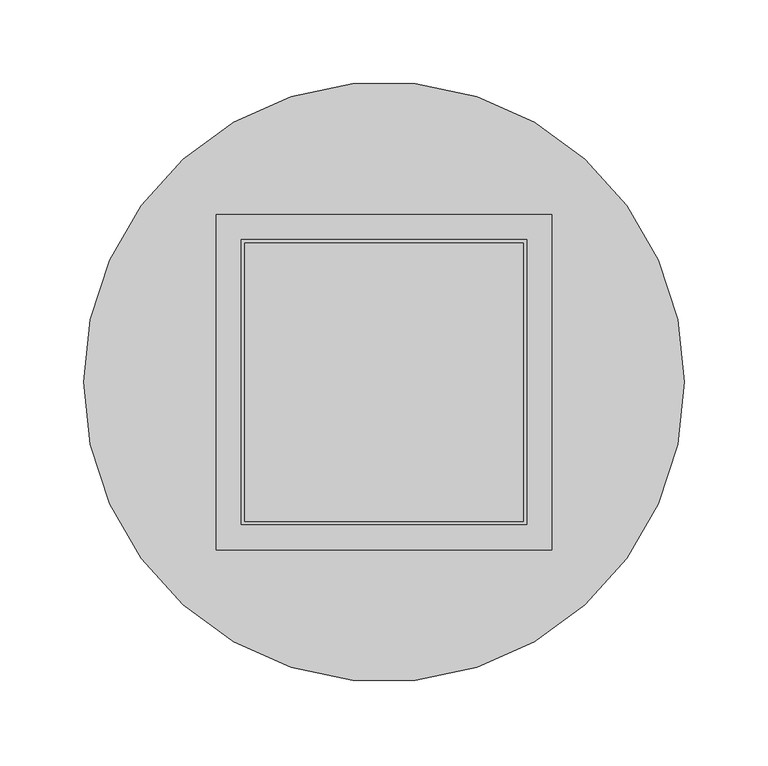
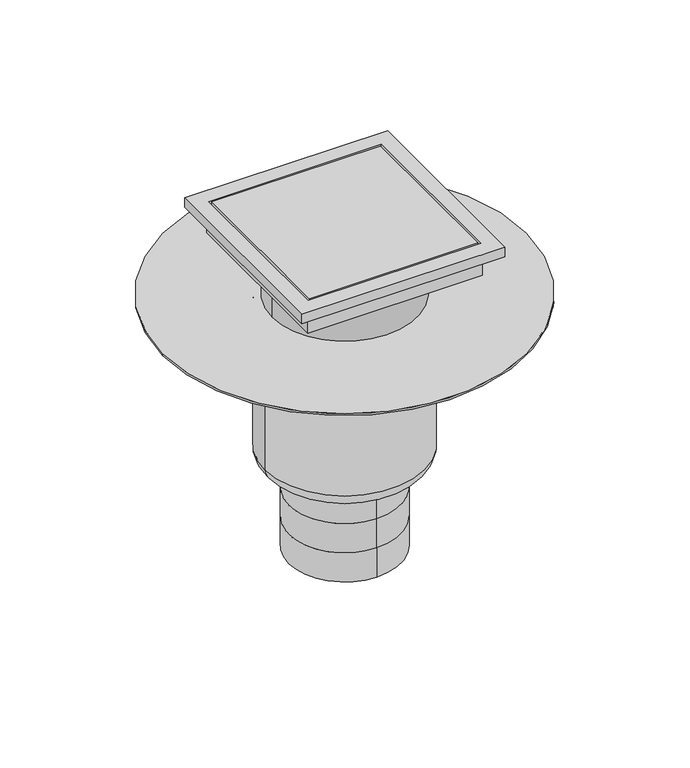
"""IFC4 building model written with IfcOpenShell, lengths in millimetres: sanitary terminal geometry, PF_ST_UN_Siphon telescopics epur hygiene first_ACO : 200 x 200 telescopic hygenic gully 157mm outlet DN110."""

from ifc_helpers import new_model, si_unit, point, frame, origin, origin_2d, place, context, project, spatial, polyline, circle_curve, ellipse_curve, trimmed, segment, composite_curve, outline, extrude, faceted_brep, source, transform, mapped, element, save
from ifc_brep_helpers import plane_surface, cylinder_surface, revolved_surface, advanced_brep


def sanitary_terminal_00a50439(model_context):
    return source(origin(), model_context, "Body", "SolidModel", [
        advanced_brep(
        [(0.0, -55.0, -456.0), (0.0, 55.0, -456.0), (0.0, -55.0, -425.6666667), (0.0, 55.0, -425.6666667), (0.0, -55.0, -395.3333333), (0.0, 55.0, -395.3333333), (0.0, 55.0, -365.0), (55.0, 0.0, -365.0), (0.0, -55.0, -365.0), (-55.0, 0.0, -365.0), (78.5, 0.0, -350.0), (-78.5, 0.0, -350.0), (-78.5, 0.0, -196.0), (78.5, 0.0, -196.0), (63.5, 0.0, -365.0), (-63.5, 0.0, -365.0), (-179.0, 0.0, -194.0), (179.0, 0.0, -194.0), (-179.0, 0.0, -196.0), (179.0, 0.0, -196.0)],
        [
            (0, 1, circle_curve(frame((0.0, 0.0, -456.0), z_axis=(0.0, 0.0, -1.0), x_axis=(0.0, 1.0, 0.0)), 55.0)),
            (1, 0, circle_curve(frame((0.0, 0.0, -456.0), z_axis=(0.0, 0.0, -1.0), x_axis=(0.0, 1.0, 0.0)), 55.0)),
            (0, 2),
            (2, 3, circle_curve(frame((0.0, 0.0, -425.6666667), z_axis=(0.0, 0.0, -1.0), x_axis=(0.0, 1.0, 0.0)), 55.0)),
            (3, 1),
            (3, 2, circle_curve(frame((0.0, 0.0, -425.6666667), z_axis=(0.0, 0.0, -1.0), x_axis=(0.0, 1.0, 0.0)), 55.0)),
            (4, 2),
            (3, 5),
            (5, 4, circle_curve(frame((0.0, 0.0, -395.3333333), z_axis=(0.0, 0.0, -1.0), x_axis=(1.0, 0.0, 0.0)), 55.0)),
            (4, 5, circle_curve(frame((0.0, 0.0, -395.3333333), z_axis=(0.0, 0.0, -1.0), x_axis=(-1.0, 0.0, 0.0)), 55.0)),
            (5, 6),
            (6, 7, circle_curve(frame((0.0, 0.0, -365.0), z_axis=(0.0, 0.0, -1.0), x_axis=(0.0, 1.0, 0.0)), 55.0)),
            (7, 8, circle_curve(frame((0.0, 0.0, -365.0), z_axis=(0.0, 0.0, -1.0), x_axis=(0.0, 1.0, 0.0)), 55.0)),
            (8, 4),
            (8, 9, circle_curve(frame((0.0, 0.0, -365.0), z_axis=(0.0, 0.0, -1.0), x_axis=(0.0, 1.0, 0.0)), 55.0)),
            (9, 6, circle_curve(frame((0.0, 0.0, -365.0), z_axis=(0.0, 0.0, -1.0), x_axis=(0.0, 1.0, 0.0)), 55.0)),
            (10, 11, circle_curve(frame((0.0, 0.0, -350.0), z_axis=(0.0, 0.0, 1.0), x_axis=(-1.0, 0.0, 0.0)), 78.5)),
            (11, 12),
            (12, 13, circle_curve(frame((0.0, 0.0, -196.0), z_axis=(0.0, 0.0, -1.0), x_axis=(-1.0, 0.0, 0.0)), 78.5)),
            (13, 10),
            (11, 10, circle_curve(frame((0.0, 0.0, -350.0), z_axis=(0.0, 0.0, 1.0), x_axis=(-1.0, 0.0, 0.0)), 78.5)),
            (13, 12, circle_curve(frame((0.0, 0.0, -196.0), z_axis=(0.0, 0.0, -1.0), x_axis=(-1.0, 0.0, 0.0)), 78.5)),
            (10, 14, circle_curve(frame((63.5, 0.0, -350.0), z_axis=(0.0, 1.0, 0.0), x_axis=(-1.0, 0.0, 0.0)), 15.0)),
            (14, 15, circle_curve(frame((0.0, 0.0, -365.0), z_axis=(0.0, 0.0, 1.0), x_axis=(-1.0, 0.0, 0.0)), 63.5)),
            (15, 11, circle_curve(frame((-63.5, 0.0, -350.0), z_axis=(0.0, 1.0, 0.0), x_axis=(1.0, 0.0, 0.0)), 15.0)),
            (15, 14, circle_curve(frame((0.0, 0.0, -365.0), z_axis=(0.0, 0.0, 1.0), x_axis=(-1.0, 0.0, 0.0)), 63.5)),
            (14, 7),
            (9, 15),
            (16, 17, circle_curve(frame((0.0, 0.0, -194.0), z_axis=(0.0, 0.0, 1.0), x_axis=(1.0, 0.0, 0.0)), 179.0)),
            (17, 16, circle_curve(frame((0.0, 0.0, -194.0), z_axis=(0.0, 0.0, 1.0), x_axis=(1.0, 0.0, 0.0)), 179.0)),
            (18, 19, circle_curve(frame((0.0, 0.0, -196.0), z_axis=(0.0, 0.0, 1.0), x_axis=(1.0, 0.0, 0.0)), 179.0)),
            (19, 17),
            (16, 18),
            (19, 18, circle_curve(frame((0.0, 0.0, -196.0), z_axis=(0.0, 0.0, 1.0), x_axis=(1.0, 0.0, 0.0)), 179.0)),
        ],
        [
            plane_surface(frame((0.0, 55.0, -456.0), z_axis=(0.0, 0.0, -1.0), x_axis=(1.0, 0.0, 0.0))),
            cylinder_surface(frame((0.0, 0.0, -425.6666667), z_axis=(0.0, 0.0, -1.0), x_axis=(0.0, 1.0, 0.0)), 55.0),
            cylinder_surface(frame((0.0, 0.0, -395.3333333), z_axis=(0.0, 0.0, -1.0), x_axis=(1.0, 0.0, 0.0)), 55.0),
            cylinder_surface(frame((0.0, 0.0, -395.3333333), z_axis=(0.0, 0.0, -1.0), x_axis=(-1.0, 0.0, 0.0)), 55.0),
            cylinder_surface(frame((0.0, 0.0, -365.0), z_axis=(0.0, 0.0, -1.0), x_axis=(0.0, 1.0, 0.0)), 55.0),
            cylinder_surface(frame((0.0, 0.0, -134.0), z_axis=(0.0, 0.0, -1.0), x_axis=(-1.0, 0.0, 0.0)), 78.5),
            revolved_surface(trimmed(ellipse_curve(frame((-63.5, 0.0, -350.0), z_axis=(0.0, -1.0, 0.0), x_axis=(1.0, 0.0, 0.0)), 15.0, 15.0), [point((-78.5, 0.0, -350.0))], [point((-63.5, 0.0, -365.0))], True, "CARTESIAN"), (0.0, 0.0, -134.0), (0.0, 0.0, -1.0)),
            plane_surface(frame((0.0, 0.0, -365.0), z_axis=(0.0, 0.0, -1.0), x_axis=(-1.0, 0.0, 0.0))),
            plane_surface(frame((179.0, 0.0, -194.0), z_axis=(0.0, 0.0, 1.0), x_axis=(0.0, 1.0, 0.0))),
            cylinder_surface(frame((0.0, 0.0, -196.0), z_axis=(0.0, 0.0, 1.0), x_axis=(1.0, 0.0, 0.0)), 179.0),
            plane_surface(frame((179.0, 0.0, -196.0), z_axis=(0.0, 0.0, -1.0), x_axis=(0.0, -1.0, 0.0))),
        ],
        [
            (0, [[1, 2]]),
            (1, [[-1, 3, 4, 5]]),
            (1, [[-2, -5, 6, -3]]),
            (2, [[7, -6, 8, 9]]),
            (3, [[-7, 10, -8, -4]]),
            (4, [[11, 12, 13, 14, -9]]),
            (4, [[-11, -10, -14, 15, 16]]),
            (5, [[17, 18, 19, 20]]),
            (5, [[-18, 21, -20, 22]]),
            (6, [[-17, 23, 24, 25]]),
            (6, [[-21, -25, 26, -23]]),
            (7, [[-24, 27, -12, -16, 28]]),
            (7, [[-26, -28, -15, -13, -27]]),
            (8, [[29, 30]]),
            (9, [[31, 32, -29, 33]]),
            (9, [[34, -33, -30, -32]]),
            (10, [[-34, -31], [-19, -22]]),
        ],
    ),
        extrude(outline(composite_curve([segment(trimmed(circle_curve(origin_2d(), 71.5), [point((-71.5, 0.0))], [point((71.5, 0.0))], False, "CARTESIAN"), True, "CONTINUOUS"), segment(trimmed(circle_curve(origin_2d(), 71.5), [point((71.5, 0.0))], [point((-71.5, 0.0))], False, "CARTESIAN"), True, "CONTINUOUS")], self_intersect=False)), frame((0.0, 0.0, -210.0), z_axis=(0.0, 0.0, 1.0), x_axis=(1.0, 0.0, 0.0)), (0.0, 0.0, 1.0), 57.0),
        faceted_brep([(100.0, 100.0, -130.0), (100.0, 100.0, -120.0), (100.0, -100.0, -120.0), (100.0, -100.0, -130.0), (86.0, 86.0, -153.0), (86.0, 86.0, -130.0), (86.0, -86.0, -130.0), (86.0, -86.0, -153.0), (85.0, -85.0, -120.0), (85.0, 85.0, -120.0), (85.0, 85.0, -143.0), (85.0, -85.0, -143.0), (-100.0, -100.0, -120.0), (-100.0, -100.0, -130.0), (-86.0, -86.0, -130.0), (-86.0, -86.0, -153.0), (-85.0, -85.0, -120.0), (-85.0, -85.0, -143.0), (-100.0, 100.0, -120.0), (-100.0, 100.0, -130.0), (-86.0, 86.0, -130.0), (-86.0, 86.0, -153.0), (-85.0, 85.0, -120.0), (-85.0, 85.0, -143.0)], [[[0, 1, 2, 3]], [[4, 5, 6, 7]], [[8, 9, 10, 11]], [[3, 2, 12, 13]], [[7, 6, 14, 15]], [[16, 8, 11, 17]], [[13, 12, 18, 19]], [[15, 14, 20, 21]], [[22, 16, 17, 23]], [[2, 1, 18, 12], [9, 8, 16, 22]], [[1, 0, 19, 18]], [[0, 3, 13, 19], [6, 5, 20, 14]], [[5, 4, 21, 20]], [[4, 7, 15, 21]], [[9, 22, 23, 10]], [[11, 10, 23, 17]]]),
        extrude(outline(polyline([(83.0, 83.0), (83.0, -83.0), (-83.0, -83.0), (-83.0, 83.0), (83.0, 83.0)])), frame((0.0, 0.0, -143.0), z_axis=(0.0, 0.0, 1.0), x_axis=(1.0, 0.0, 0.0)), (0.0, 0.0, 1.0), 23.0),
    ])


if __name__ == "__main__":
    model = new_model("IFC4")
    model_context = context("Model", 3, world=origin())
    ifc_project = project(units=[si_unit("LENGTHUNIT", "METRE", prefix="MILLI")], contexts=[model_context])
    site = spatial("IfcSite", under=ifc_project)
    building = spatial("IfcBuilding", under=site)
    placement = place(None, origin())
    sanitary_terminal_shape = sanitary_terminal_00a50439(model_context)
    element("IfcSanitaryTerminal", 1, ObjectType="PF_ST_UN_Siphon telescopics epur hygiene first_ACO : 200 x 200 telescopic hygenic gully 157mm outlet DN110", at=placement, inside=building, context=model_context, shape_type="MappedRepresentation", body=[
        mapped(sanitary_terminal_shape, transform((0.0, 0.0, 0.0), x_axis=(1.0, 0.0, 0.0), y_axis=(0.0, 1.0, 0.0), z_axis=(0.0, 0.0, 1.0))),
    ])
    save(model, "model.ifc")
